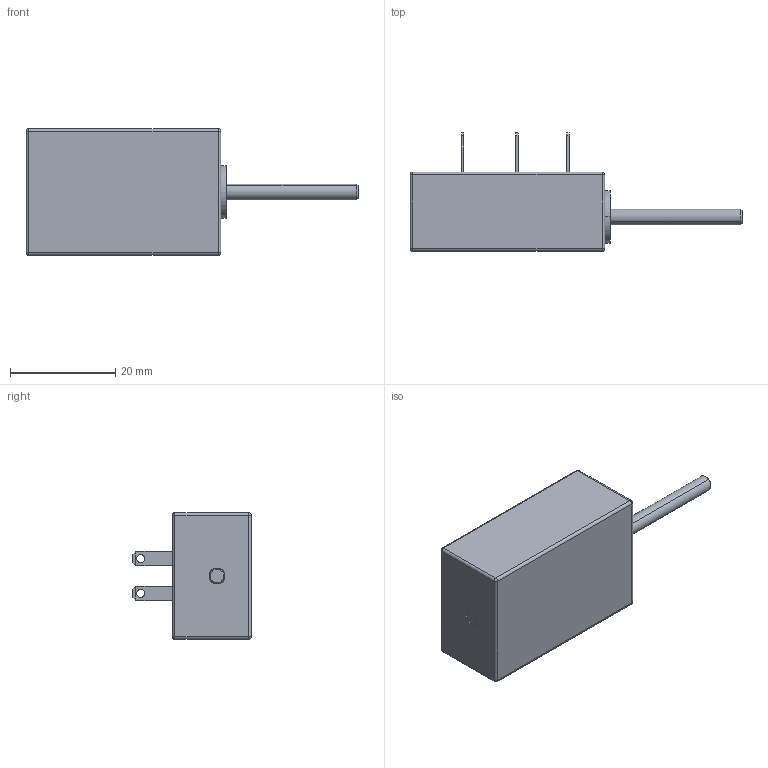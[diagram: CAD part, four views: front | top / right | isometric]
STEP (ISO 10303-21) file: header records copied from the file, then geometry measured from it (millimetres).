
FILE_DESCRIPTION (( 'STEP AP214' ), '1' );
FILE_NAME ('15FLP10A.STEP', '2017-02-03T03:38:13', ( '' ), ( '' ), 'SwSTEP 2.0', 'SolidWorks 2016', '' );
FILE_SCHEMA (( 'AUTOMOTIVE_DESIGN' ));
Products named in the file (2): Part3^15FLP10A; 15FLP10A
Assembly tree (1 placements, depth 2):
  15FLP10A
    Part3^15FLP10A
Bounding box: 63.05 x 22.5 x 24 mm (x, y, z)
Volume: 9474.4 mm3; surface area: 8089.7 mm2
Topology: 2 solids, 6 shells, 3335 faces, 8909 edges, 4781 vertices
Faces by surface type: bspline 2880, plane 294, cylinder 117, cone 30, sphere 8, torus 6
Entity records: 285693 total; most frequent: CARTESIAN_POINT 234058, ORIENTED_EDGE 17794, EDGE_CURVE 8897, VERTEX_POINT 4781, EDGE_LOOP 4104, FACE_OUTER_BOUND 3335, ADVANCED_FACE 3335, DIRECTION 2793
